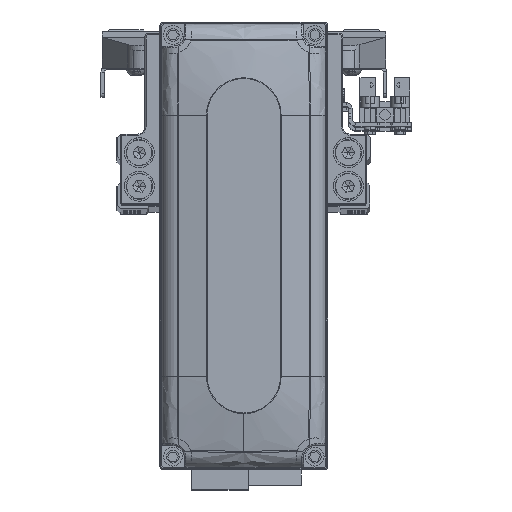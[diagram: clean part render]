
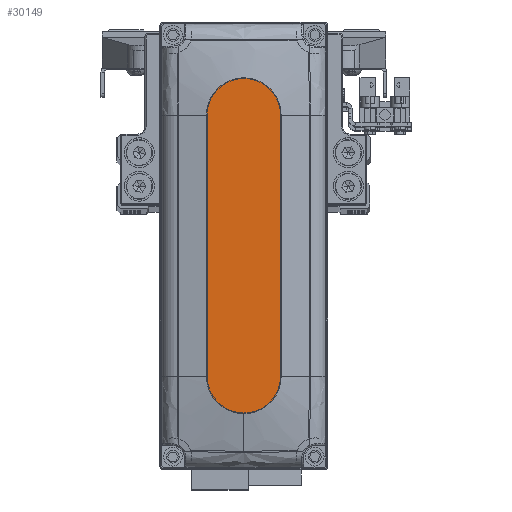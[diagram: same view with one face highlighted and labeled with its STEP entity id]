
A CAD part, top view. The second image highlights one B-rep face of the part: STEP entity #30149.
In plain terms, the highlighted planar face has unit normal (0, 0, 1).
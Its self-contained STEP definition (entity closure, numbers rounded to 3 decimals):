
#170 = DIRECTION ( 'NONE',  ( 1., 0., 0. ) ) ;
#379 = CARTESIAN_POINT ( 'NONE',  ( 35., -10., 28. ) ) ;
#1468 = VERTEX_POINT ( 'NONE', #379 ) ;
#1639 = AXIS2_PLACEMENT_3D ( 'NONE', #39364, #7206, #21549 ) ;
#2416 = DIRECTION ( 'NONE',  ( 0., 0., 1. ) ) ;
#2719 = CARTESIAN_POINT ( 'NONE',  ( 35., 0., 28. ) ) ;
#4768 = EDGE_CURVE ( 'NONE', #14237, #44229, #37058, .T. ) ;
#4822 = VERTEX_POINT ( 'NONE', #35043 ) ;
#5309 = VECTOR ( 'NONE', #26411, 1000. ) ;
#7206 = DIRECTION ( 'NONE',  ( 0., 0., 1. ) ) ;
#7705 = VERTEX_POINT ( 'NONE', #30883 ) ;
#7813 = ORIENTED_EDGE ( 'NONE', *, *, #8733, .T. ) ;
#7910 = DIRECTION ( 'NONE',  ( 1., 0., 0. ) ) ;
#8406 = CIRCLE ( 'NONE', #34644, 10. ) ;
#8733 = EDGE_CURVE ( 'NONE', #44229, #1468, #25774, .T. ) ;
#10736 = FACE_OUTER_BOUND ( 'NONE', #11753, .T. ) ;
#11753 = EDGE_LOOP ( 'NONE', ( #28678, #38307, #7813, #46111, #16562 ) ) ;
#12078 = CARTESIAN_POINT ( 'NONE',  ( -35., 10., 28. ) ) ;
#14237 = VERTEX_POINT ( 'NONE', #19758 ) ;
#14687 = CIRCLE ( 'NONE', #40907, 10. ) ;
#16009 = EDGE_CURVE ( 'NONE', #1468, #7705, #14687, .T. ) ;
#16562 = ORIENTED_EDGE ( 'NONE', *, *, #30477, .T. ) ;
#16774 = DIRECTION ( 'NONE',  ( 1., 0., 0. ) ) ;
#16857 = AXIS2_PLACEMENT_3D ( 'NONE', #34560, #2416, #16774 ) ;
#17055 = DIRECTION ( 'NONE',  ( 0., 0., 1. ) ) ;
#18035 = CARTESIAN_POINT ( 'NONE',  ( 35., 0., 28. ) ) ;
#19758 = CARTESIAN_POINT ( 'NONE',  ( -35., 10., 28. ) ) ;
#21549 = DIRECTION ( 'NONE',  ( 1., 0., 0. ) ) ;
#25069 = PLANE ( 'NONE',  #1639 ) ;
#25774 = LINE ( 'NONE', #40070, #39120 ) ;
#26411 = DIRECTION ( 'NONE',  ( -1., 0., 0. ) ) ;
#28678 = ORIENTED_EDGE ( 'NONE', *, *, #36535, .T. ) ;
#30149 = ADVANCED_FACE ( 'NONE', ( #10736 ), #25069, .T. ) ;
#30477 = EDGE_CURVE ( 'NONE', #7705, #4822, #8406, .T. ) ;
#30883 = CARTESIAN_POINT ( 'NONE',  ( 45., 0., 28. ) ) ;
#31340 = DIRECTION ( 'NONE',  ( 1., 0., 0. ) ) ;
#32319 = DIRECTION ( 'NONE',  ( 0., 0., 1. ) ) ;
#34560 = CARTESIAN_POINT ( 'NONE',  ( -35., 0., 28. ) ) ;
#34644 = AXIS2_PLACEMENT_3D ( 'NONE', #2719, #17055, #31340 ) ;
#35043 = CARTESIAN_POINT ( 'NONE',  ( 35., 10., 28. ) ) ;
#36535 = EDGE_CURVE ( 'NONE', #4822, #14237, #44223, .T. ) ;
#36798 = CARTESIAN_POINT ( 'NONE',  ( -35., -10., 28. ) ) ;
#37058 = CIRCLE ( 'NONE', #16857, 10. ) ;
#38307 = ORIENTED_EDGE ( 'NONE', *, *, #4768, .T. ) ;
#39120 = VECTOR ( 'NONE', #7910, 1000. ) ;
#39364 = CARTESIAN_POINT ( 'NONE',  ( 0., 0., 28. ) ) ;
#40070 = CARTESIAN_POINT ( 'NONE',  ( -35., -10., 28. ) ) ;
#40907 = AXIS2_PLACEMENT_3D ( 'NONE', #18035, #32319, #170 ) ;
#44223 = LINE ( 'NONE', #12078, #5309 ) ;
#44229 = VERTEX_POINT ( 'NONE', #36798 ) ;
#46111 = ORIENTED_EDGE ( 'NONE', *, *, #16009, .T. ) ;
